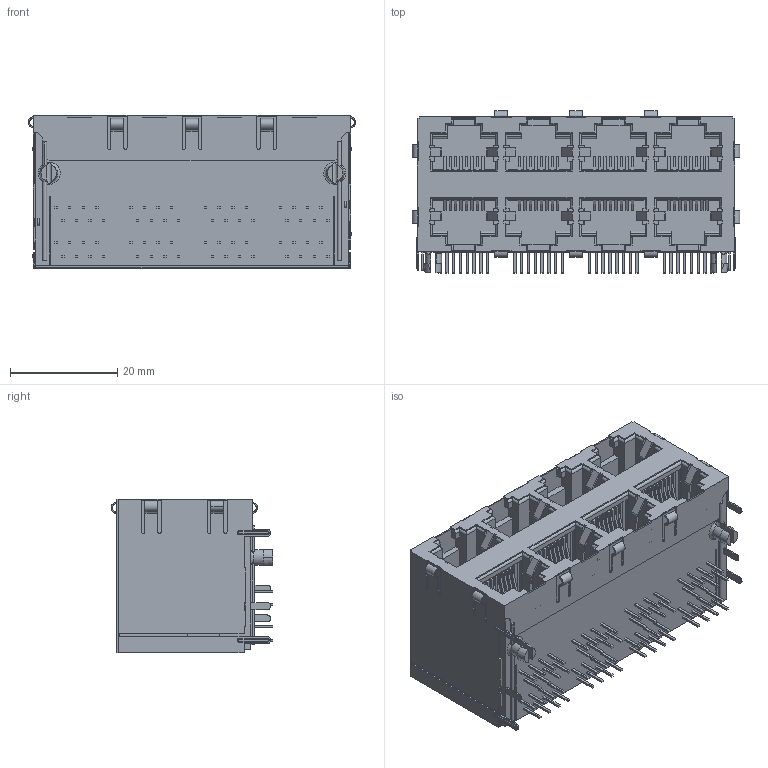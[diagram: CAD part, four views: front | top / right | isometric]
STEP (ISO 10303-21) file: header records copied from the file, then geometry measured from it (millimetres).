
FILE_DESCRIPTION (( 'STEP AP203' ), '1' );
FILE_NAME ('8949-AID2888-50S1BA-1110823.STEP', '2022-08-23T08:41:22', ( '' ), ( '' ), 'SwSTEP 2.0', 'SolidWorks 2019', '' );
FILE_SCHEMA (( 'CONFIG_CONTROL_DESIGN' ));
Products named in the file (2): 8949-AID2888-50S1BA-1110419; 8949-AID2888-50S1BA-1110823
Assembly tree (1 placements, depth 2):
  8949-AID2888-50S1BA-1110823
    8949-AID2888-50S1BA-1110419
Bounding box: 61.23 x 30.25 x 28.6 mm (x, y, z)
Volume: 22065.3 mm3; surface area: 42072.8 mm2
Topology: 4 solids, 4 shells, 2591 faces, 8008 edges, 5283 vertices
Faces by surface type: plane 2194, cylinder 373, bspline 18, cone 6
Entity records: 89164 total; most frequent: CARTESIAN_POINT 16952, ORIENTED_EDGE 16016, DIRECTION 13677, EDGE_CURVE 8008, LINE 7239, VECTOR 7239, VERTEX_POINT 5283, AXIS2_PLACEMENT_3D 3219
